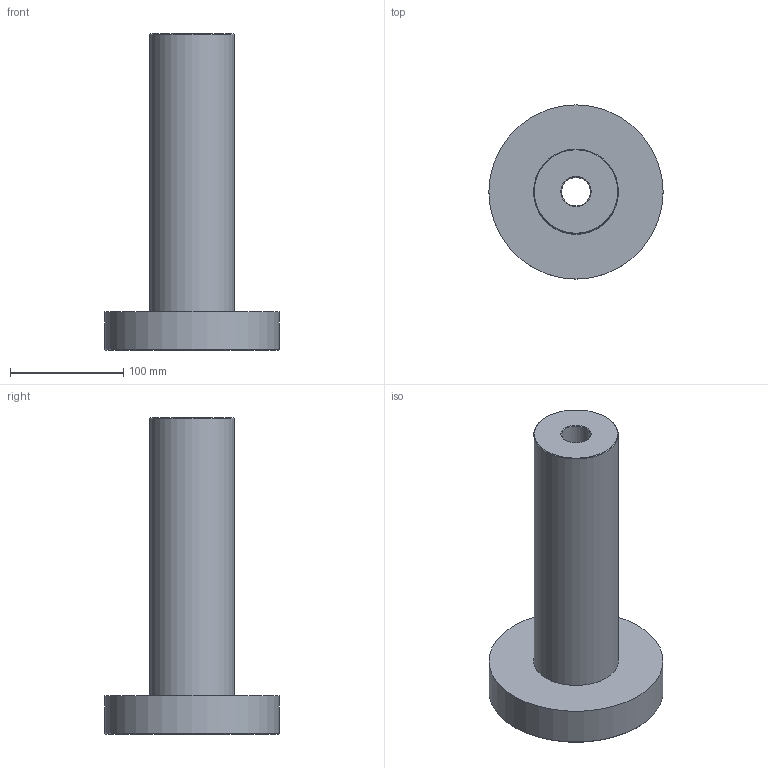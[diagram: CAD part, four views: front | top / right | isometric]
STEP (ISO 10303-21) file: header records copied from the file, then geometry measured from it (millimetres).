
FILE_DESCRIPTION(('Mechanical CAD reference from nasji.com'),'2;1');
FILE_NAME('NASJI.step','',(''),(''),'','NASJI distribution','');
FILE_SCHEMA(('AUTOMOTIVE_DESIGN { 1 0 10303 214 1 1 1 1 }'));
Length unit declared in the file: millimetre
Products named in the file (1): Open CASCADE STEP translator 7.8 122
Bounding box: 154 x 154 x 279.6 mm (x, y, z)
Volume: 1572834 mm3; surface area: 132693.6 mm2
Topology: 1 solids, 1 shells, 10 faces, 17 edges, 10 vertices
Faces by surface type: cone 4, plane 3, cylinder 3
Full cylindrical faces by diameter (mm): 25.6 x1, 75 x1, 154 x1
Entity records: 466 total; most frequent: CARTESIAN_POINT 80, DIRECTION 75, ORIENTED_EDGE 34, PCURVE 34, DEFINITIONAL_REPRESENTATION 34, LINE 27, VECTOR 27, AXIS2_PLACEMENT_3D 21
